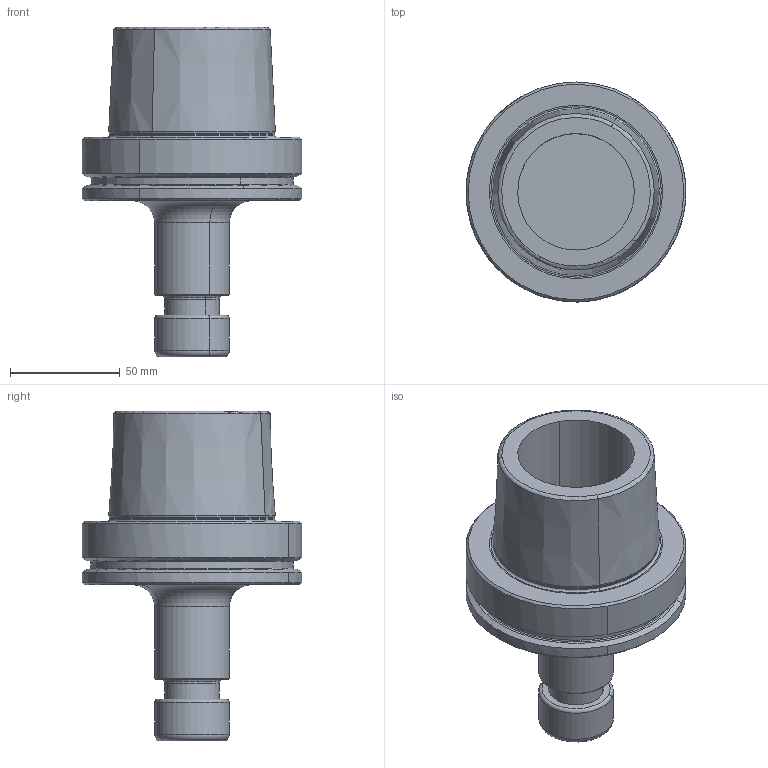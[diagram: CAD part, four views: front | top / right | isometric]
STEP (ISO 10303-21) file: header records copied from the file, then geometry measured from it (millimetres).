
FILE_DESCRIPTION(('CATIA V5 STEP','CAx-IF Rec.Pracs.--- Model Styling and Organization---1.2---2011-12-15'),'2;1');
FILE_NAME('\\nas01\drv1\utils\eitdev\rte\eit\transmagicconvert\db\out\635922578978299663\4561221-L-M.stp','2016-02-28T10:05:10+00:00',('none'),('none'),'CATIA Version 5 Release 21 SP 5 (IN-10)','CATIA V5 STEP AP214','none');
FILE_SCHEMA(('AUTOMOTIVE_DESIGN { 1 0 10303 214 1 1 1 1 }'));
Length unit declared in the file: millimetre
Products named in the file (1): HSK A 100 ER20X100
Bounding box: 99.99 x 100 x 150 mm (x, y, z)
Volume: 349315.9 mm3; surface area: 57000.4 mm2
Topology: 1 solids, 1 shells, 74 faces, 194 edges, 129 vertices
Faces by surface type: cylinder 24, cone 20, torus 20, plane 10
Entity records: 2237 total; most frequent: CARTESIAN_POINT 552, ORIENTED_EDGE 384, DIRECTION 260, EDGE_CURVE 192, AXIS2_PLACEMENT_3D 173, VERTEX_POINT 129, CIRCLE 128, EDGE_LOOP 83
